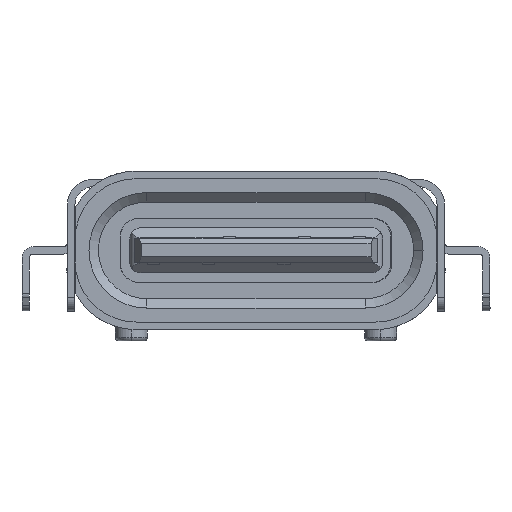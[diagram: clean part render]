
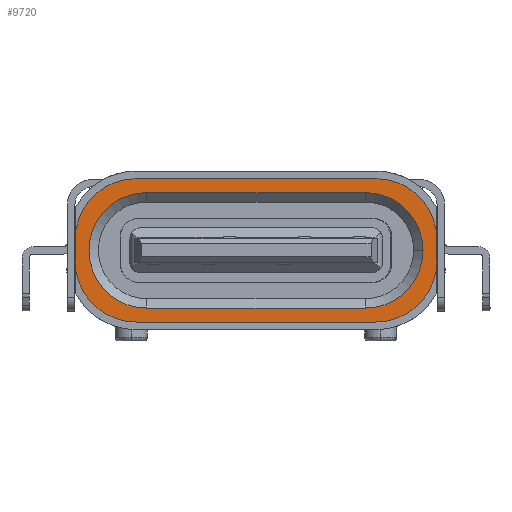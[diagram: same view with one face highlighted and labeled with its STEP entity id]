
A CAD part, front view. The second image highlights one B-rep face of the part: STEP entity #9720.
In plain terms, the highlighted planar face has unit normal (0, -1, 0) as drawn and (0, 0, 1) by its records, which use the part's own axes.
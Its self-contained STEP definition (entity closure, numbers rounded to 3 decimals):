
#344 = VERTEX_POINT ( 'NONE', #4072 ) ;
#637 = CARTESIAN_POINT ( 'NONE',  ( 0., 612.823, -3.935 ) ) ;
#664 = VERTEX_POINT ( 'NONE', #14175 ) ;
#831 = ORIENTED_EDGE ( 'NONE', *, *, #8038, .T. ) ;
#1195 = ORIENTED_EDGE ( 'NONE', *, *, #13748, .T. ) ;
#1379 = VERTEX_POINT ( 'NONE', #13356 ) ;
#1640 = EDGE_CURVE ( 'NONE', #3169, #1379, #18048, .T. ) ;
#1771 = EDGE_CURVE ( 'NONE', #10615, #7875, #17115, .T. ) ;
#1871 = CARTESIAN_POINT ( 'NONE',  ( 936.403, 614.723, -3.935 ) ) ;
#1963 = AXIS2_PLACEMENT_3D ( 'NONE', #3249, #14829, #13204 ) ;
#1967 = ORIENTED_EDGE ( 'NONE', *, *, #12464, .T. ) ;
#2145 = AXIS2_PLACEMENT_3D ( 'NONE', #6763, #12592, #17010 ) ;
#2366 = CARTESIAN_POINT ( 'NONE',  ( 936.683, 612.823, -3.935 ) ) ;
#2431 = DIRECTION ( 'NONE',  ( 1., 0., 0. ) ) ;
#2499 = DIRECTION ( 'NONE',  ( 0., -1., 0. ) ) ;
#2823 = DIRECTION ( 'NONE',  ( 1., 0., 0. ) ) ;
#3068 = DIRECTION ( 'NONE',  ( 0., 0., 1. ) ) ;
#3084 = CARTESIAN_POINT ( 'NONE',  ( 936.403, 613.193, -3.935 ) ) ;
#3169 = VERTEX_POINT ( 'NONE', #2366 ) ;
#3206 = EDGE_LOOP ( 'NONE', ( #1195, #9624, #1967, #6824, #11381 ) ) ;
#3249 = CARTESIAN_POINT ( 'NONE',  ( 936.403, 614.723, -3.935 ) ) ;
#3452 = CARTESIAN_POINT ( 'NONE',  ( 938.303, 615.003, -3.935 ) ) ;
#4072 = CARTESIAN_POINT ( 'NONE',  ( 928.713, 615.003, -3.935 ) ) ;
#4574 = CARTESIAN_POINT ( 'NONE',  ( 0., 616.623, -3.935 ) ) ;
#5179 = CARTESIAN_POINT ( 'NONE',  ( 928.713, 0., -3.935 ) ) ;
#5271 = DIRECTION ( 'NONE',  ( 0., 1., 0. ) ) ;
#5293 = CARTESIAN_POINT ( 'NONE',  ( 930.333, 614.443, -3.935 ) ) ;
#5370 = AXIS2_PLACEMENT_3D ( 'NONE', #1871, #13794, #6525 ) ;
#5828 = LINE ( 'NONE', #4574, #10219 ) ;
#5927 = DIRECTION ( 'NONE',  ( 1., 0., 0. ) ) ;
#6102 = VERTEX_POINT ( 'NONE', #8789 ) ;
#6525 = DIRECTION ( 'NONE',  ( 1., 0., 0. ) ) ;
#6763 = CARTESIAN_POINT ( 'NONE',  ( 936.683, 615.003, -3.935 ) ) ;
#6824 = ORIENTED_EDGE ( 'NONE', *, *, #14743, .T. ) ;
#6916 = VERTEX_POINT ( 'NONE', #15708 ) ;
#6992 = ORIENTED_EDGE ( 'NONE', *, *, #17075, .T. ) ;
#7202 = DIRECTION ( 'NONE',  ( 1., 0., 0. ) ) ;
#7273 = CIRCLE ( 'NONE', #17974, 1.62 ) ;
#7533 = CIRCLE ( 'NONE', #5370, 1.53 ) ;
#7765 = CARTESIAN_POINT ( 'NONE',  ( 930.613, 613.193, -3.935 ) ) ;
#7875 = VERTEX_POINT ( 'NONE', #13538 ) ;
#7947 = AXIS2_PLACEMENT_3D ( 'NONE', #15851, #14421, #8102 ) ;
#7971 = LINE ( 'NONE', #637, #14457 ) ;
#8038 = EDGE_CURVE ( 'NONE', #664, #344, #8356, .T. ) ;
#8102 = DIRECTION ( 'NONE',  ( 1., 0., 0. ) ) ;
#8328 = VECTOR ( 'NONE', #2823, 1000. ) ;
#8356 = CIRCLE ( 'NONE', #13845, 1.62 ) ;
#8467 = AXIS2_PLACEMENT_3D ( 'NONE', #18692, #15698, #12540 ) ;
#8636 = VERTEX_POINT ( 'NONE', #9282 ) ;
#8666 = VECTOR ( 'NONE', #9344, 1000. ) ;
#8789 = CARTESIAN_POINT ( 'NONE',  ( 930.613, 616.253, -3.935 ) ) ;
#8841 = CARTESIAN_POINT ( 'NONE',  ( 930.333, 615.003, -3.935 ) ) ;
#9282 = CARTESIAN_POINT ( 'NONE',  ( 937.933, 614.723, -3.935 ) ) ;
#9344 = DIRECTION ( 'NONE',  ( -1., 0., 0. ) ) ;
#9624 = ORIENTED_EDGE ( 'NONE', *, *, #10836, .T. ) ;
#9702 = VERTEX_POINT ( 'NONE', #11573 ) ;
#9720 = ADVANCED_FACE ( 'NONE', ( #17420, #16353 ), #16260, .T. ) ;
#10050 = EDGE_CURVE ( 'NONE', #6102, #15499, #15918, .T. ) ;
#10219 = VECTOR ( 'NONE', #11657, 1000. ) ;
#10258 = EDGE_CURVE ( 'NONE', #3169, #9702, #7971, .T. ) ;
#10615 = VERTEX_POINT ( 'NONE', #3452 ) ;
#10760 = LINE ( 'NONE', #18070, #8666 ) ;
#10836 = EDGE_CURVE ( 'NONE', #8636, #14892, #12627, .T. ) ;
#11292 = CARTESIAN_POINT ( 'NONE',  ( 938.303, 0., -3.935 ) ) ;
#11381 = ORIENTED_EDGE ( 'NONE', *, *, #10050, .T. ) ;
#11422 = CARTESIAN_POINT ( 'NONE',  ( 0., 616.253, -3.935 ) ) ;
#11502 = DIRECTION ( 'NONE',  ( 0., 0., 1. ) ) ;
#11573 = CARTESIAN_POINT ( 'NONE',  ( 930.333, 612.823, -3.935 ) ) ;
#11657 = DIRECTION ( 'NONE',  ( 1., 0., 0. ) ) ;
#11862 = CARTESIAN_POINT ( 'NONE',  ( 0., 0., -3.935 ) ) ;
#12464 = EDGE_CURVE ( 'NONE', #14892, #16106, #10760, .T. ) ;
#12540 = DIRECTION ( 'NONE',  ( 1., 0., 0. ) ) ;
#12553 = ORIENTED_EDGE ( 'NONE', *, *, #1640, .T. ) ;
#12592 = DIRECTION ( 'NONE',  ( 0., 0., 1. ) ) ;
#12627 = CIRCLE ( 'NONE', #1963, 1.53 ) ;
#12758 = EDGE_LOOP ( 'NONE', ( #15637, #15906, #831, #14585, #6992, #17166, #12553, #12878 ) ) ;
#12878 = ORIENTED_EDGE ( 'NONE', *, *, #17544, .F. ) ;
#13204 = DIRECTION ( 'NONE',  ( 1., 0., 0. ) ) ;
#13356 = CARTESIAN_POINT ( 'NONE',  ( 938.303, 614.443, -3.935 ) ) ;
#13538 = CARTESIAN_POINT ( 'NONE',  ( 936.683, 616.623, -3.935 ) ) ;
#13748 = EDGE_CURVE ( 'NONE', #15499, #8636, #7533, .T. ) ;
#13794 = DIRECTION ( 'NONE',  ( 0., 0., -1. ) ) ;
#13807 = AXIS2_PLACEMENT_3D ( 'NONE', #11862, #3068, #5927 ) ;
#13845 = AXIS2_PLACEMENT_3D ( 'NONE', #8841, #11502, #7202 ) ;
#14175 = CARTESIAN_POINT ( 'NONE',  ( 930.333, 616.623, -3.935 ) ) ;
#14421 = DIRECTION ( 'NONE',  ( 0., 0., 1. ) ) ;
#14457 = VECTOR ( 'NONE', #16776, 1000. ) ;
#14477 = VECTOR ( 'NONE', #2499, 1000. ) ;
#14585 = ORIENTED_EDGE ( 'NONE', *, *, #14762, .F. ) ;
#14743 = EDGE_CURVE ( 'NONE', #16106, #6102, #17651, .T. ) ;
#14762 = EDGE_CURVE ( 'NONE', #6916, #344, #18403, .T. ) ;
#14829 = DIRECTION ( 'NONE',  ( 0., 0., -1. ) ) ;
#14892 = VERTEX_POINT ( 'NONE', #3084 ) ;
#15479 = VECTOR ( 'NONE', #5271, 1000. ) ;
#15499 = VERTEX_POINT ( 'NONE', #15556 ) ;
#15556 = CARTESIAN_POINT ( 'NONE',  ( 936.403, 616.253, -3.935 ) ) ;
#15596 = LINE ( 'NONE', #11292, #14477 ) ;
#15637 = ORIENTED_EDGE ( 'NONE', *, *, #1771, .T. ) ;
#15698 = DIRECTION ( 'NONE',  ( 0., 0., -1. ) ) ;
#15708 = CARTESIAN_POINT ( 'NONE',  ( 928.713, 614.443, -3.935 ) ) ;
#15851 = CARTESIAN_POINT ( 'NONE',  ( 936.683, 614.443, -3.935 ) ) ;
#15906 = ORIENTED_EDGE ( 'NONE', *, *, #17852, .F. ) ;
#15918 = LINE ( 'NONE', #11422, #8328 ) ;
#16106 = VERTEX_POINT ( 'NONE', #7765 ) ;
#16260 = PLANE ( 'NONE',  #13807 ) ;
#16353 = FACE_OUTER_BOUND ( 'NONE', #12758, .T. ) ;
#16776 = DIRECTION ( 'NONE',  ( -1., 0., 0. ) ) ;
#17010 = DIRECTION ( 'NONE',  ( 1., 0., 0. ) ) ;
#17075 = EDGE_CURVE ( 'NONE', #6916, #9702, #7273, .T. ) ;
#17115 = CIRCLE ( 'NONE', #2145, 1.62 ) ;
#17166 = ORIENTED_EDGE ( 'NONE', *, *, #10258, .F. ) ;
#17420 = FACE_BOUND ( 'NONE', #3206, .T. ) ;
#17544 = EDGE_CURVE ( 'NONE', #10615, #1379, #15596, .T. ) ;
#17651 = CIRCLE ( 'NONE', #8467, 1.53 ) ;
#17852 = EDGE_CURVE ( 'NONE', #664, #7875, #5828, .T. ) ;
#17974 = AXIS2_PLACEMENT_3D ( 'NONE', #5293, #18424, #2431 ) ;
#18048 = CIRCLE ( 'NONE', #7947, 1.62 ) ;
#18070 = CARTESIAN_POINT ( 'NONE',  ( 930.613, 613.193, -3.935 ) ) ;
#18403 = LINE ( 'NONE', #5179, #15479 ) ;
#18424 = DIRECTION ( 'NONE',  ( 0., 0., 1. ) ) ;
#18692 = CARTESIAN_POINT ( 'NONE',  ( 930.613, 614.723, -3.935 ) ) ;
